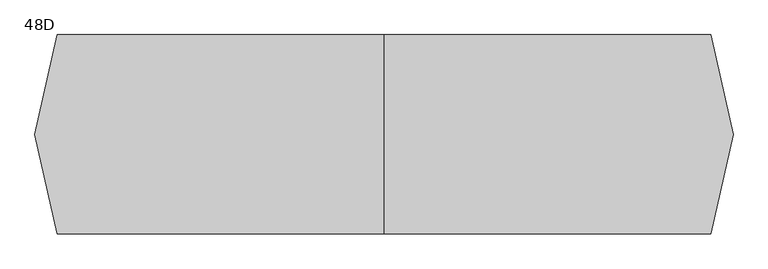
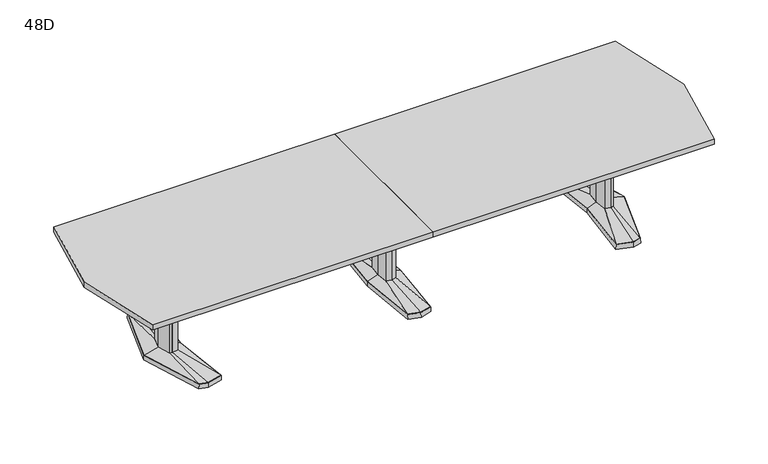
"""IFC4 building model written with IfcOpenShell, lengths in millimetres: furniture geometry, Coalesse_AM_Table_Conference_ETable2_Faceted_14ft_Aluminium Base : 48D."""

import ifcopenshell
import ifcopenshell.guid

model = None  # the IFC model being written
_history = None  # IfcOwnerHistory: only IFC2X3 demands one
_inside = {}  # id of a spatial element -> (the spatial element, [elements in it])
_under = {}  # id of a project, library or spatial element -> (it, [spatial elements below it])
_declared = {}  # id of a project -> (the project, [libraries it declares])
_typed = {}  # id of a type object -> (the type object, [elements of that type])
_made_of = {}  # id of a material, layer set ... -> (it, [elements and type objects made of it])


def new_model(schema):
    """Start an empty IFC model of exactly this schema.

    Asked for "IFC4X3", IfcOpenShell would pick the latest addendum, in which some entities
    have other attributes; the version numbers below select the first issue.
    IFC2X3 requires an IfcOwnerHistory on every rooted entity: one is made here for all.
    """
    global model, _history
    if schema == "IFC4X3":
        model = ifcopenshell.file(schema_version=(4, 3, 0, 0))
    else:
        model = ifcopenshell.file(schema=schema)
    _inside.clear()
    _under.clear()
    _declared.clear()
    _typed.clear()
    _made_of.clear()
    _history = None
    if model.schema == "IFC2X3":
        org = make("IfcOrganization", Name="unknown")
        user = make(
            "IfcPersonAndOrganization",
            ThePerson=make("IfcPerson", FamilyName="unknown"),
            TheOrganization=org,
        )
        app = make(
            "IfcApplication",
            ApplicationDeveloper=org,
            Version="unknown",
            ApplicationFullName="unknown",
            ApplicationIdentifier="unknown",
        )
        _history = make(
            "IfcOwnerHistory",
            OwningUser=user,
            OwningApplication=app,
            ChangeAction="ADDED",
            CreationDate=0,
        )
    return model


def make(cls, **values):
    """One entity of the class cls with the attributes given. An attribute that is None is left unset."""
    return model.create_entity(
        cls, **{name: value for name, value in values.items() if value is not None}
    )


def rooted(cls, **values):
    """An entity with a GlobalId (a new one), such as an element, a storey or a relation."""
    return make(cls, GlobalId=ifcopenshell.guid.new(), OwnerHistory=_history, **values)


def si_unit(unit_type, name, prefix=None):
    """IfcSIUnit, for example si_unit("LENGTHUNIT", "METRE", prefix="MILLI")."""
    return make("IfcSIUnit", UnitType=unit_type, Prefix=prefix, Name=name)


def assignment(units):
    """IfcUnitAssignment: the units of a project."""
    return None if units is None else make("IfcUnitAssignment", Units=units)


def point(xyz):
    """IfcCartesianPoint."""
    return None if xyz is None else make("IfcCartesianPoint", Coordinates=xyz)


def direction(xyz):
    """IfcDirection."""
    return None if xyz is None else make("IfcDirection", DirectionRatios=xyz)


def frame(location, z_axis=None, x_axis=None):
    """IfcAxis2Placement3D, a coordinate frame: its origin and axes. An axis left out is left unset."""
    return make(
        "IfcAxis2Placement3D",
        Location=point(location),
        Axis=direction(z_axis),
        RefDirection=direction(x_axis),
    )


def origin():
    """The frame at (0, 0, 0) with its axes left unset."""
    return frame((0.0, 0.0, 0.0))


def place(relative_to, where):
    """IfcLocalPlacement: puts the frame where relative to a parent placement (None: the world)."""
    return make(
        "IfcLocalPlacement", PlacementRelTo=relative_to, RelativePlacement=where
    )


def context(
    kind, dimensions, precision=None, world=None, true_north=None, identifier=None
):
    """IfcGeometricRepresentationContext, for example the 3D "Model" context."""
    return make(
        "IfcGeometricRepresentationContext",
        ContextIdentifier=identifier,
        ContextType=kind,
        CoordinateSpaceDimension=dimensions,
        Precision=precision,
        WorldCoordinateSystem=world,
        TrueNorth=true_north,
    )


def project(units=None, contexts=None):
    """IfcProject with its units and contexts."""
    return rooted(
        "IfcProject",
        Name="project",
        RepresentationContexts=contexts,
        UnitsInContext=assignment(units),
    )


def spatial(cls, under=None, at=None, **own):
    """A site, building, storey or space (cls), placed at a placement, below another one or the project."""
    s = rooted(cls, ObjectPlacement=at, **own)
    if under is not None:
        _under.setdefault(under.id(), (under, []))[1].append(s)
    return s


def polyline(points):
    """IfcPolyline through the points."""
    return make("IfcPolyline", Points=[point(p) for p in points])


def outline(outer, holes=None, kind="AREA"):
    """IfcArbitraryClosedProfileDef: a profile drawn as a closed curve; with holes, ...WithVoids."""
    if holes is None:
        return make("IfcArbitraryClosedProfileDef", ProfileType=kind, OuterCurve=outer)
    return make(
        "IfcArbitraryProfileDefWithVoids",
        ProfileType=kind,
        OuterCurve=outer,
        InnerCurves=holes,
    )


def extrude(swept, where, along, depth):
    """IfcExtrudedAreaSolid: the profile swept, set in the frame where, extruded along a direction by depth."""
    return make(
        "IfcExtrudedAreaSolid",
        SweptArea=swept,
        Position=where,
        ExtrudedDirection=direction(along),
        Depth=depth,
    )


def faces_of(points, faces, orient=None, outer=None):
    """IfcFace entities. A face is a list of loops; a loop is a list of indices into points, from 0.

    orient and outer hold one flag for each loop. By default every Orientation is true, the
    first loop of a face is its IfcFaceOuterBound and the others are IfcFaceBound.
    """
    made = []
    for i, loops in enumerate(faces):
        bounds = []
        for j, loop in enumerate(loops):
            is_outer = j == 0 if outer is None else outer[i][j]
            bounds.append(
                make(
                    "IfcFaceOuterBound" if is_outer else "IfcFaceBound",
                    Bound=make("IfcPolyLoop", Polygon=[points[k] for k in loop]),
                    Orientation=True if orient is None else orient[i][j],
                )
            )
        made.append(make("IfcFace", Bounds=bounds))
    return made


def faceted_brep(points, faces, orient=None, outer=None, voids=None):
    """IfcFacetedBrep: a solid bounded by flat faces; with voids (closed shells), ...WithVoids."""
    shared = [point(p) for p in points]
    hull = make("IfcClosedShell", CfsFaces=faces_of(shared, faces, orient, outer))
    if voids is None:
        return make("IfcFacetedBrep", Outer=hull)
    return make(
        "IfcFacetedBrepWithVoids",
        Outer=hull,
        Voids=[
            make(cls, CfsFaces=faces_of(shared, fs, o, b)) for cls, fs, o, b in voids
        ],
    )


def shape(context_of_items, identifier, shape_type, items):
    """IfcShapeRepresentation: the items that make up one representation, for example the "Body"."""
    return make(
        "IfcShapeRepresentation",
        ContextOfItems=context_of_items,
        RepresentationIdentifier=identifier,
        RepresentationType=shape_type,
        Items=items,
    )


def source(mapping_origin, context_of_items, identifier, shape_type, items):
    """IfcRepresentationMap: a shape defined once, which mapped items show again and again."""
    return make(
        "IfcRepresentationMap",
        MappingOrigin=mapping_origin,
        MappedRepresentation=shape(context_of_items, identifier, shape_type, items),
    )


def transform(
    local_origin,
    x_axis=None,
    y_axis=None,
    z_axis=None,
    scale=None,
    scale2=None,
    scale3=None,
    uniform=True,
):
    """IfcCartesianTransformationOperator3D, or its non-uniform kind. x_axis, y_axis, z_axis: its Axis1, 2, 3."""
    if uniform:
        return make(
            "IfcCartesianTransformationOperator3D",
            Axis1=direction(x_axis),
            Axis2=direction(y_axis),
            LocalOrigin=point(local_origin),
            Scale=scale,
            Axis3=direction(z_axis),
        )
    return make(
        "IfcCartesianTransformationOperator3DnonUniform",
        Axis1=direction(x_axis),
        Axis2=direction(y_axis),
        LocalOrigin=point(local_origin),
        Scale=scale,
        Axis3=direction(z_axis),
        Scale2=scale2,
        Scale3=scale3,
    )


def mapped(mapping_source, mapping_target):
    """IfcMappedItem: shows the shape of a source again, moved by a transform."""
    return make(
        "IfcMappedItem", MappingSource=mapping_source, MappingTarget=mapping_target
    )


def made_of(thing, what):
    """Note that an element or type object is made of a material, layer set ...; save() writes the relation."""
    if what is not None:
        _made_of.setdefault(what.id(), (what, []))[1].append(thing)
    return thing


def element(
    cls,
    number,
    at=None,
    inside=None,
    cuts=None,
    type_object=None,
    material=None,
    context=None,
    identifier="Body",
    shape_type=None,
    held_by="IfcProductDefinitionShape",
    body=None,
    shapes=None,
    **own,
):
    """One element of the class cls, such as IfcWall. Its Tag is "e" and its number.

    at: its placement. inside: the storey or other place that contains it. cuts: it is an
    opening in that element (IfcRelVoidsElement). A single representation is given by context,
    identifier, shape_type and body (its items); several are given by shapes. held_by: the class
    of the entity that holds the representations. save() writes the other relations.
    """
    e = rooted(cls, Tag="e%d" % number, ObjectPlacement=at, **own)
    if body is not None:
        shapes = [shape(context, identifier, shape_type, body)]
    if shapes is not None:
        e.Representation = make(held_by, Representations=shapes)
    if inside is not None:
        _inside.setdefault(inside.id(), (inside, []))[1].append(e)
    if cuts is not None:
        rooted(
            "IfcRelVoidsElement", RelatingBuildingElement=cuts, RelatedOpeningElement=e
        )
    if type_object is not None:
        _typed.setdefault(type_object.id(), (type_object, []))[1].append(e)
    return made_of(e, material)


def aggregate(whole, parts):
    """IfcRelAggregates: a whole, such as a stair, and the parts it consists of."""
    return rooted("IfcRelAggregates", RelatingObject=whole, RelatedObjects=parts)


def save(model, path):
    """Write the relations noted so far, then the file.

    IfcRelAggregates (storeys below a building ...), IfcRelContainedInSpatialStructure (elements
    in a storey), IfcRelDefinesByType, IfcRelAssociatesMaterial and IfcRelDeclares: one each for
    every whole, place, type object, material and project.
    """
    for whole, parts in _under.values():
        aggregate(whole, parts)
    for where, things in _inside.values():
        rooted(
            "IfcRelContainedInSpatialStructure",
            RelatedElements=things,
            RelatingStructure=where,
        )
    for kind, things in _typed.values():
        rooted("IfcRelDefinesByType", RelatedObjects=things, RelatingType=kind)
    for what, things in _made_of.values():
        rooted("IfcRelAssociatesMaterial", RelatedObjects=things, RelatingMaterial=what)
    for by, libraries in _declared.values():
        rooted("IfcRelDeclares", RelatingContext=by, RelatedDefinitions=libraries)
    model.write(path)


def plane_surface(at):
    """IfcPlane: the flat surface through the origin of the frame at, square to its z axis."""
    return make("IfcPlane", Position=at)


def spline_surface(u_degree, v_degree, points, u_multiplicities, v_multiplicities, u_knots, v_knots, weights=None):
    """IfcBSplineSurfaceWithKnots; with weights, IfcRationalBSplineSurfaceWithKnots. points: one row for each step in u."""
    own = dict(
        UDegree=u_degree,
        VDegree=v_degree,
        ControlPointsList=[[point(p) for p in row] for row in points],
        SurfaceForm="UNSPECIFIED",
        UClosed=False,
        VClosed=False,
        SelfIntersect=False,
        UMultiplicities=u_multiplicities,
        VMultiplicities=v_multiplicities,
        UKnots=u_knots,
        VKnots=v_knots,
        KnotSpec="UNSPECIFIED",
    )
    if weights is None:
        return make("IfcBSplineSurfaceWithKnots", **own)
    return make("IfcRationalBSplineSurfaceWithKnots", WeightsData=weights, **own)


def advanced_brep(points, edges, surfaces, faces):
    """IfcAdvancedBrep: a solid bounded by faces that lie on surfaces and meet in shared edges.

    An edge is (start, end): straight between two places in points (the first is 0);
    or (start, end, curve); or (start, end, curve, False) where it runs against its curve.
    A face is (place in surfaces, loops), or (place, loops, False) where it looks against
    its surface's normal. A loop lists edges by number (the first is 1), with a minus sign
    where the edge is run from its end to its start. The first loop is the outer one.
    """
    corners = [point(p) for p in points]
    vertices = [make("IfcVertexPoint", VertexGeometry=c) for c in corners]
    made = []
    for start, end, *more in edges:
        made.append(
            make(
                "IfcEdgeCurve",
                EdgeStart=vertices[start],
                EdgeEnd=vertices[end],
                EdgeGeometry=more[0] if more else make("IfcPolyline", Points=[corners[start], corners[end]]),
                SameSense=more[1] if len(more) > 1 else True,
            )
        )
    hull = []
    for where, loops, *sense in faces:
        bounds = []
        for j, loop in enumerate(loops):
            ring = [make("IfcOrientedEdge", EdgeElement=made[abs(k) - 1], Orientation=k > 0) for k in loop]
            bounds.append(
                make(
                    "IfcFaceOuterBound" if j == 0 else "IfcFaceBound",
                    Bound=make("IfcEdgeLoop", EdgeList=ring),
                    Orientation=True,
                )
            )
        hull.append(make("IfcAdvancedFace", Bounds=bounds, FaceSurface=surfaces[where], SameSense=sense[0] if sense else True))
    return make("IfcAdvancedBrep", Outer=make("IfcClosedShell", CfsFaces=hull))


def furniture_48d_42d3a3b3(model_context):
    return source(origin(), model_context, "Body", "SolidModel", [
        faceted_brep([(1515.4306835, 455.5848221, 38.1), (1405.8531277, 426.2263816, 38.1), (1447.0163717, 0.0, 38.1), (1405.8531277, -426.2263816, 38.1), (1515.4306835, -455.5848221, 38.1), (1571.5570396, -440.5478297, 38.1), (1708.8684269, 0.0, 38.1), (1571.5570396, 440.5478297, 38.1), (1515.4306754, 457.2283104, 3.175), (1572.8124472, 441.8549756, 3.175), (1710.53125, 0.0, 3.175), (1572.8124472, -441.8549756, 3.175), (1515.4306754, -457.2283104, 3.175), (1404.14375, -427.4118891, 3.175), (1445.4214856, 0.0, 3.175), (1404.14375, 427.4118891, 3.175), (1519.020115, 428.3273875, 3.175), (1413.9718228, 402.1057253, 3.175), (1422.090518, 377.985069, 3.175), (1522.6095466, 401.0699529, 3.175), (1573.1691725, 387.524361, 3.175), (1572.3631061, 414.0360954, 3.175), (1519.020115, -428.3273875, 3.175), (1572.3631061, -414.0360954, 3.175), (1573.1691725, -387.524361, 3.175), (1522.6095466, -401.0699529, 3.175), (1422.090518, -377.985069, 3.175), (1413.9718228, -402.1057253, 3.175), (1645.6153621, 0.0, 3.175), (1613.3459611, 120.4193755, 3.175), (1564.6987222, 133.471665, 3.175), (1484.8180526, 119.4176561, 3.175), (1473.6868466, 0.0, 3.175), (1484.8180526, -119.4176561, 3.175), (1564.6987222, -133.471665, 3.175), (1613.3459611, -120.4193755, 3.175), (1519.020115, 428.3273875, 0.0), (1572.3631061, 414.0360954, 0.0), (1573.1691725, 387.524361, 0.0), (1522.6095466, 401.0699529, 0.0), (1422.090518, 377.985069, 0.0), (1413.9718228, 402.1057253, 0.0), (1519.020115, -428.3273875, 0.0), (1413.9718228, -402.1057253, 0.0), (1422.090518, -377.985069, 0.0), (1522.6095466, -401.0699529, 0.0), (1573.1691725, -387.524361, 0.0), (1572.3631061, -414.0360954, 0.0), (1645.6153621, 0.0, 0.0), (1613.3459611, -120.4193755, 0.0), (1564.6987222, -133.471665, 0.0), (1484.8180526, -119.4176561, 0.0), (1473.6868466, 0.0, 0.0), (1484.8180526, 119.4176561, 0.0), (1564.6987222, 133.471665, 0.0), (1613.3459611, 120.4193755, 0.0)], [[[0, 1, 2, 3, 4, 5, 6, 7]], [[8, 9, 10, 11, 12, 13, 14, 15], [16, 17, 18, 19, 20, 21], [22, 23, 24, 25, 26, 27], [28, 29, 30, 31, 32, 33, 34, 35]], [[7, 9, 8, 0]], [[6, 10, 9, 7]], [[5, 11, 10, 6]], [[4, 12, 11, 5]], [[3, 13, 12, 4]], [[2, 14, 13, 3]], [[1, 15, 14, 2]], [[0, 8, 15, 1]], [[36, 37, 38, 39, 40, 41]], [[42, 43, 44, 45, 46, 47]], [[48, 49, 50, 51, 52, 53, 54, 55]], [[36, 16, 21, 37]], [[37, 21, 20, 38]], [[38, 20, 19, 39]], [[39, 19, 18, 40]], [[40, 18, 17, 41]], [[41, 17, 16, 36]], [[42, 22, 27, 43]], [[43, 27, 26, 44]], [[44, 26, 25, 45]], [[45, 25, 24, 46]], [[46, 24, 23, 47]], [[47, 23, 22, 42]], [[48, 28, 35, 49]], [[49, 35, 34, 50]], [[50, 34, 33, 51]], [[51, 33, 32, 52]], [[52, 32, 31, 53]], [[53, 31, 30, 54]], [[54, 30, 29, 55]], [[55, 29, 28, 48]]]),
        faceted_brep([(1606.1710836, 0.0, 698.5), (1582.2358546, 89.3188359, 698.5), (1565.3824984, 93.8406728, 698.5), (1562.9826511, 94.4845635, 698.5), (1520.055146, 86.9320037, 698.5), (1511.9520056, 0.0, 698.5), (1520.055146, -86.9320037, 698.5), (1562.9826511, -94.4845635, 698.5), (1565.3824984, -93.8406728, 698.5), (1582.2358546, -89.3188359, 698.5), (1606.1710836, 0.0, 63.5), (1582.2358546, -89.3188359, 63.5), (1565.3824984, -93.8406728, 63.5), (1562.9826511, -94.4845635, 63.5), (1520.055146, -86.9320037, 63.5), (1511.9520056, 0.0, 63.5), (1520.055146, 86.9320037, 63.5), (1562.9826511, 94.4845635, 63.5), (1565.3824984, 93.8406728, 63.5), (1582.2358546, 89.3188359, 63.5)], [[[0, 1, 2, 3, 4, 5, 6, 7, 8, 9]], [[10, 11, 12, 13, 14, 15, 16, 17, 18, 19]], [[9, 11, 10, 0]], [[8, 12, 11, 9]], [[7, 13, 12, 8]], [[6, 14, 13, 7]], [[5, 15, 14, 6]], [[4, 16, 15, 5]], [[3, 17, 16, 4]], [[2, 18, 17, 3]], [[1, 19, 18, 2]], [[0, 10, 19, 1]]]),
        advanced_brep(
        [(1562.9826511, 94.4845635, 63.5), (1520.055146, 86.9320037, 63.5), (1511.9520056, 0.0, 63.5), (1520.055146, -86.9320037, 63.5), (1562.9826511, -94.4845635, 63.5), (1582.2358546, -89.3188359, 63.5), (1606.1710836, 0.0, 63.5), (1582.2358546, 89.3188359, 63.5), (1515.4306835, 455.5848221, 38.1), (1571.5570396, 440.5478297, 38.1), (1708.8684269, 0.0, 38.1), (1571.5570396, -440.5478297, 38.1), (1515.4306835, -455.5848221, 38.1), (1405.8531277, -426.2263816, 38.1), (1447.0163717, 0.0, 38.1), (1405.8531277, 426.2263816, 38.1)],
        [
            (0, 1),
            (1, 2),
            (2, 3),
            (3, 4),
            (4, 5),
            (5, 6),
            (6, 7),
            (7, 0),
            (8, 9),
            (9, 10),
            (10, 11),
            (11, 12),
            (12, 13),
            (13, 14),
            (14, 15),
            (15, 8),
            (8, 0),
            (7, 9),
            (6, 10),
            (5, 11),
            (4, 12),
            (3, 13),
            (2, 14),
            (1, 15),
        ],
        [
            plane_surface(frame((1556.0837991, 0.0, 63.5), z_axis=(0.0, 0.0, 1.0), x_axis=(-0.25884244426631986, -0.9659195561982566, 0.0))),
            plane_surface(frame((1517.6958125, 0.0, 38.1), z_axis=(0.0, 0.0, -1.0), x_axis=(-0.25884244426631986, -0.9659195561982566, 0.0))),
            spline_surface(1, 1, [[(1515.4306835, 455.5848221, 38.1), (1571.5570396, 440.5478297, 38.1)], [(1562.9826511, 94.4845635, 63.5), (1582.2358546, 89.3188359, 63.5)]], [2, 2], [2, 2], [0.0, 1.0], [0.0, 1.0]),
            spline_surface(1, 1, [[(1571.5570396, 440.5478297, 38.1), (1708.8684269, 0.0, 38.1)], [(1582.2358546, 89.3188359, 63.5), (1606.1710836, 0.0, 63.5)]], [2, 2], [2, 2], [0.0, 1.0], [0.0, 1.0]),
            spline_surface(1, 1, [[(1708.8684269, 0.0, 38.1), (1571.5570396, -440.5478297, 38.1)], [(1606.1710836, 0.0, 63.5), (1582.2358546, -89.3188359, 63.5)]], [2, 2], [2, 2], [0.0, 1.0], [0.0, 1.0]),
            spline_surface(1, 1, [[(1571.5570396, -440.5478297, 38.1), (1515.4306835, -455.5848221, 38.1)], [(1582.2358546, -89.3188359, 63.5), (1562.9826511, -94.4845635, 63.5)]], [2, 2], [2, 2], [0.0, 1.0], [0.0, 1.0]),
            spline_surface(1, 1, [[(1515.4306835, -455.5848221, 38.1), (1405.8531277, -426.2263816, 38.1)], [(1562.9826511, -94.4845635, 63.5), (1520.055146, -86.9320037, 63.5)]], [2, 2], [2, 2], [0.0, 1.0], [0.0, 1.0]),
            spline_surface(1, 1, [[(1405.8531277, -426.2263816, 38.1), (1447.0163717, 0.0, 38.1)], [(1520.055146, -86.9320037, 63.5), (1511.9520056, 0.0, 63.5)]], [2, 2], [2, 2], [0.0, 1.0], [0.0, 1.0]),
            spline_surface(1, 1, [[(1447.0163717, 0.0, 38.1), (1405.8531277, 426.2263816, 38.1)], [(1511.9520056, 0.0, 63.5), (1520.055146, 86.9320037, 63.5)]], [2, 2], [2, 2], [0.0, 1.0], [0.0, 1.0]),
            spline_surface(1, 1, [[(1405.8531277, 426.2263816, 38.1), (1515.4306835, 455.5848221, 38.1)], [(1520.055146, 86.9320037, 63.5), (1562.9826511, 94.4845635, 63.5)]], [2, 2], [2, 2], [0.0, 1.0], [0.0, 1.0]),
        ],
        [
            (0, [[1, 2, 3, 4, 5, 6, 7, 8]]),
            (1, [[9, 10, 11, 12, 13, 14, 15, 16]]),
            (2, [[17, -8, 18, -9]]),
            (3, [[-18, -7, 19, -10]]),
            (4, [[-19, -6, 20, -11]]),
            (5, [[-20, -5, 21, -12]]),
            (6, [[-21, -4, 22, -13]]),
            (7, [[-22, -3, 23, -14]]),
            (8, [[-23, -2, 24, -15]]),
            (9, [[-24, -1, -17, -16]]),
        ],
    ),
        faceted_brep([(-1515.4306835, 455.5848221, 38.1), (-1571.5570396, 440.5478297, 38.1), (-1708.8684269, 0.0, 38.1), (-1571.5570396, -440.5478297, 38.1), (-1515.4306835, -455.5848221, 38.1), (-1405.8531277, -426.2263816, 38.1), (-1447.0163717, 0.0, 38.1), (-1405.8531277, 426.2263816, 38.1), (-1515.4306754, 457.2283104, 3.175), (-1404.14375, 427.4118891, 3.175), (-1445.4214856, 0.0, 3.175), (-1404.14375, -427.4118891, 3.175), (-1515.4306754, -457.2283104, 3.175), (-1572.8124472, -441.8549756, 3.175), (-1710.53125, 0.0, 3.175), (-1572.8124472, 441.8549756, 3.175), (-1519.020115, 428.3273875, 3.175), (-1572.3631061, 414.0360954, 3.175), (-1573.1691725, 387.524361, 3.175), (-1522.6095466, 401.0699529, 3.175), (-1422.090518, 377.985069, 3.175), (-1413.9718228, 402.1057253, 3.175), (-1519.020115, -428.3273875, 3.175), (-1413.9718228, -402.1057253, 3.175), (-1422.090518, -377.985069, 3.175), (-1522.6095466, -401.0699529, 3.175), (-1573.1691725, -387.524361, 3.175), (-1572.3631061, -414.0360954, 3.175), (-1645.6153621, 0.0, 3.175), (-1613.3459611, -120.4193755, 3.175), (-1564.6987222, -133.471665, 3.175), (-1484.8180526, -119.4176561, 3.175), (-1473.6868466, 0.0, 3.175), (-1484.8180526, 119.4176561, 3.175), (-1564.6987222, 133.471665, 3.175), (-1613.3459611, 120.4193755, 3.175), (-1519.020115, 428.3273875, 0.0), (-1413.9718228, 402.1057253, 0.0), (-1422.090518, 377.985069, 0.0), (-1522.6095466, 401.0699529, 0.0), (-1573.1691725, 387.524361, 0.0), (-1572.3631061, 414.0360954, 0.0), (-1519.020115, -428.3273875, 0.0), (-1572.3631061, -414.0360954, 0.0), (-1573.1691725, -387.524361, 0.0), (-1522.6095466, -401.0699529, 0.0), (-1422.090518, -377.985069, 0.0), (-1413.9718228, -402.1057253, 0.0), (-1645.6153621, 0.0, 0.0), (-1613.3459611, 120.4193755, 0.0), (-1564.6987222, 133.471665, 0.0), (-1484.8180526, 119.4176561, 0.0), (-1473.6868466, 0.0, 0.0), (-1484.8180526, -119.4176561, 0.0), (-1564.6987222, -133.471665, 0.0), (-1613.3459611, -120.4193755, 0.0)], [[[0, 1, 2, 3, 4, 5, 6, 7]], [[8, 9, 10, 11, 12, 13, 14, 15], [16, 17, 18, 19, 20, 21], [22, 23, 24, 25, 26, 27], [28, 29, 30, 31, 32, 33, 34, 35]], [[1, 0, 8, 15]], [[2, 1, 15, 14]], [[3, 2, 14, 13]], [[4, 3, 13, 12]], [[5, 4, 12, 11]], [[6, 5, 11, 10]], [[7, 6, 10, 9]], [[0, 7, 9, 8]], [[36, 37, 38, 39, 40, 41]], [[42, 43, 44, 45, 46, 47]], [[48, 49, 50, 51, 52, 53, 54, 55]], [[36, 41, 17, 16]], [[41, 40, 18, 17]], [[40, 39, 19, 18]], [[39, 38, 20, 19]], [[38, 37, 21, 20]], [[37, 36, 16, 21]], [[42, 47, 23, 22]], [[47, 46, 24, 23]], [[46, 45, 25, 24]], [[45, 44, 26, 25]], [[44, 43, 27, 26]], [[43, 42, 22, 27]], [[48, 55, 29, 28]], [[55, 54, 30, 29]], [[54, 53, 31, 30]], [[53, 52, 32, 31]], [[52, 51, 33, 32]], [[51, 50, 34, 33]], [[50, 49, 35, 34]], [[49, 48, 28, 35]]]),
        faceted_brep([(-1606.1710836, 0.0, 698.5), (-1582.2358546, -89.3188359, 698.5), (-1565.3824984, -93.8406728, 698.5), (-1562.9826511, -94.4845635, 698.5), (-1520.055146, -86.9320037, 698.5), (-1511.9520056, 0.0, 698.5), (-1520.055146, 86.9320037, 698.5), (-1562.9826511, 94.4845635, 698.5), (-1565.3824984, 93.8406728, 698.5), (-1582.2358546, 89.3188359, 698.5), (-1606.1710836, 0.0, 63.5), (-1582.2358546, 89.3188359, 63.5), (-1565.3824984, 93.8406728, 63.5), (-1562.9826511, 94.4845635, 63.5), (-1520.055146, 86.9320037, 63.5), (-1511.9520056, 0.0, 63.5), (-1520.055146, -86.9320037, 63.5), (-1562.9826511, -94.4845635, 63.5), (-1565.3824984, -93.8406728, 63.5), (-1582.2358546, -89.3188359, 63.5)], [[[0, 1, 2, 3, 4, 5, 6, 7, 8, 9]], [[10, 11, 12, 13, 14, 15, 16, 17, 18, 19]], [[1, 0, 10, 19]], [[2, 1, 19, 18]], [[3, 2, 18, 17]], [[4, 3, 17, 16]], [[5, 4, 16, 15]], [[6, 5, 15, 14]], [[7, 6, 14, 13]], [[8, 7, 13, 12]], [[9, 8, 12, 11]], [[0, 9, 11, 10]]]),
        advanced_brep(
        [(-1562.9826511, 94.4845635, 63.5), (-1582.2358546, 89.3188359, 63.5), (-1606.1710836, 0.0, 63.5), (-1582.2358546, -89.3188359, 63.5), (-1562.9826511, -94.4845635, 63.5), (-1520.055146, -86.9320037, 63.5), (-1511.9520056, 0.0, 63.5), (-1520.055146, 86.9320037, 63.5), (-1515.4306835, 455.5848221, 38.1), (-1405.8531277, 426.2263816, 38.1), (-1447.0163717, 0.0, 38.1), (-1405.8531277, -426.2263816, 38.1), (-1515.4306835, -455.5848221, 38.1), (-1571.5570396, -440.5478297, 38.1), (-1708.8684269, 0.0, 38.1), (-1571.5570396, 440.5478297, 38.1)],
        [
            (0, 1),
            (1, 2),
            (2, 3),
            (3, 4),
            (4, 5),
            (5, 6),
            (6, 7),
            (7, 0),
            (8, 9),
            (9, 10),
            (10, 11),
            (11, 12),
            (12, 13),
            (13, 14),
            (14, 15),
            (15, 8),
            (15, 1),
            (0, 8),
            (14, 2),
            (13, 3),
            (12, 4),
            (11, 5),
            (10, 6),
            (9, 7),
        ],
        [
            plane_surface(frame((-1556.0837991, 0.0, 63.5), z_axis=(0.0, 0.0, 1.0), x_axis=(0.25884244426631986, -0.9659195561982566, 0.0))),
            plane_surface(frame((-1517.6958125, 0.0, 38.1), z_axis=(0.0, 0.0, -1.0), x_axis=(0.25884244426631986, -0.9659195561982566, 0.0))),
            spline_surface(1, 1, [[(-1515.4306835, 455.5848221, 38.1), (-1562.9826511, 94.4845635, 63.5)], [(-1571.5570396, 440.5478297, 38.1), (-1582.2358546, 89.3188359, 63.5)]], [2, 2], [2, 2], [0.0, 1.0], [0.0, 1.0]),
            spline_surface(1, 1, [[(-1571.5570396, 440.5478297, 38.1), (-1582.2358546, 89.3188359, 63.5)], [(-1708.8684269, 0.0, 38.1), (-1606.1710836, 0.0, 63.5)]], [2, 2], [2, 2], [0.0, 1.0], [0.0, 1.0]),
            spline_surface(1, 1, [[(-1708.8684269, 0.0, 38.1), (-1606.1710836, 0.0, 63.5)], [(-1571.5570396, -440.5478297, 38.1), (-1582.2358546, -89.3188359, 63.5)]], [2, 2], [2, 2], [0.0, 1.0], [0.0, 1.0]),
            spline_surface(1, 1, [[(-1571.5570396, -440.5478297, 38.1), (-1582.2358546, -89.3188359, 63.5)], [(-1515.4306835, -455.5848221, 38.1), (-1562.9826511, -94.4845635, 63.5)]], [2, 2], [2, 2], [0.0, 1.0], [0.0, 1.0]),
            spline_surface(1, 1, [[(-1515.4306835, -455.5848221, 38.1), (-1562.9826511, -94.4845635, 63.5)], [(-1405.8531277, -426.2263816, 38.1), (-1520.055146, -86.9320037, 63.5)]], [2, 2], [2, 2], [0.0, 1.0], [0.0, 1.0]),
            spline_surface(1, 1, [[(-1405.8531277, -426.2263816, 38.1), (-1520.055146, -86.9320037, 63.5)], [(-1447.0163717, 0.0, 38.1), (-1511.9520056, 0.0, 63.5)]], [2, 2], [2, 2], [0.0, 1.0], [0.0, 1.0]),
            spline_surface(1, 1, [[(-1447.0163717, 0.0, 38.1), (-1511.9520056, 0.0, 63.5)], [(-1405.8531277, 426.2263816, 38.1), (-1520.055146, 86.9320037, 63.5)]], [2, 2], [2, 2], [0.0, 1.0], [0.0, 1.0]),
            spline_surface(1, 1, [[(-1405.8531277, 426.2263816, 38.1), (-1520.055146, 86.9320037, 63.5)], [(-1515.4306835, 455.5848221, 38.1), (-1562.9826511, 94.4845635, 63.5)]], [2, 2], [2, 2], [0.0, 1.0], [0.0, 1.0]),
        ],
        [
            (0, [[1, 2, 3, 4, 5, 6, 7, 8]]),
            (1, [[9, 10, 11, 12, 13, 14, 15, 16]]),
            (2, [[-16, 17, -1, 18]]),
            (3, [[-15, 19, -2, -17]]),
            (4, [[-14, 20, -3, -19]]),
            (5, [[-13, 21, -4, -20]]),
            (6, [[-12, 22, -5, -21]]),
            (7, [[-11, 23, -6, -22]]),
            (8, [[-10, 24, -7, -23]]),
            (9, [[-9, -18, -8, -24]]),
        ],
    ),
        faceted_brep([(-81.2333791, -433.8053819, 38.1), (0.0, -455.556576, 38.1), (81.2333791, -433.8053819, 38.1), (119.0564774, 0.0, 38.1), (81.2333791, 433.8053819, 38.1), (0.0, 455.556576, 38.1), (-81.2333791, 433.8053819, 38.1), (-119.0564774, 0.0, 38.1), (-82.7182795, -435.0512063, 3.175), (-120.65, 0.0, 3.175), (-82.7182795, 435.0512063, 3.175), (0.0, 457.2, 3.175), (82.7182795, 435.0512063, 3.175), (120.65, 0.0, 3.175), (82.7182795, -435.0512063, 3.175), (0.0, -457.2, 3.175), (0.0, 429.2617927, 3.175), (-77.9676806, 408.3850278, 3.175), (-74.7019821, 382.9646737, 3.175), (0.0, 402.9670094, 3.175), (74.7019821, 382.9646737, 3.175), (77.9676806, 408.3850278, 3.175), (0.0, -429.2617927, 3.175), (77.9676806, -408.3850278, 3.175), (74.7019821, -382.9646737, 3.175), (0.0, -402.9670094, 3.175), (-74.7019821, -382.9646737, 3.175), (-77.9676806, -408.3850278, 3.175), (-71.8574262, 114.6326257, 3.175), (-82.5426076, 0.0, 3.175), (-71.8574262, -114.6326257, 3.175), (0.0, -133.8761372, 3.175), (71.8574262, -114.6326257, 3.175), (82.5426076, 0.0, 3.175), (71.8574262, 114.6326257, 3.175), (0.0, 133.8761372, 3.175), (0.0, 429.2617927, 0.0), (77.9676806, 408.3850278, 0.0), (74.7019821, 382.9646737, 0.0), (0.0, 402.9670094, 0.0), (-74.7019821, 382.9646737, 0.0), (-77.9676806, 408.3850278, 0.0), (0.0, -429.2617927, 0.0), (-77.9676806, -408.3850278, 0.0), (-74.7019821, -382.9646737, 0.0), (0.0, -402.9670094, 0.0), (74.7019821, -382.9646737, 0.0), (77.9676806, -408.3850278, 0.0), (-71.8574262, 114.6326257, 0.0), (0.0, 133.8761372, 0.0), (71.8574262, 114.6326257, 0.0), (82.5426076, 0.0, 0.0), (71.8574262, -114.6326257, 0.0), (0.0, -133.8761372, 0.0), (-71.8574262, -114.6326257, 0.0), (-82.5426076, 0.0, 0.0)], [[[0, 1, 2, 3, 4, 5, 6, 7]], [[8, 9, 10, 11, 12, 13, 14, 15], [16, 17, 18, 19, 20, 21], [22, 23, 24, 25, 26, 27], [28, 29, 30, 31, 32, 33, 34, 35]], [[1, 0, 8, 15]], [[2, 1, 15, 14]], [[3, 2, 14, 13]], [[4, 3, 13, 12]], [[5, 4, 12, 11]], [[6, 5, 11, 10]], [[7, 6, 10, 9]], [[0, 7, 9, 8]], [[36, 37, 38, 39, 40, 41]], [[42, 43, 44, 45, 46, 47]], [[48, 49, 50, 51, 52, 53, 54, 55]], [[36, 41, 17, 16]], [[41, 40, 18, 17]], [[40, 39, 19, 18]], [[39, 38, 20, 19]], [[38, 37, 21, 20]], [[37, 36, 16, 21]], [[42, 47, 23, 22]], [[47, 46, 24, 23]], [[46, 45, 25, 24]], [[45, 44, 26, 25]], [[44, 43, 27, 26]], [[43, 42, 22, 27]], [[48, 55, 29, 28]], [[55, 54, 30, 29]], [[54, 53, 31, 30]], [[53, 52, 32, 31]], [[52, 51, 33, 32]], [[51, 50, 34, 33]], [[50, 49, 35, 34]], [[49, 48, 28, 35]]]),
        faceted_brep([(-36.3832834, 84.6900825, 698.5), (-44.2774487, 0.0, 698.5), (-36.3832834, -84.6900825, 698.5), (0.0, -94.4335728, 698.5), (36.3832834, -84.6900825, 698.5), (44.2774487, 0.0, 698.5), (36.3832834, 84.6900825, 698.5), (0.0, 94.4335728, 698.5), (-36.3832834, 84.6900825, 63.5), (0.0, 94.4335728, 63.5), (36.3832834, 84.6900825, 63.5), (44.2774487, 0.0, 63.5), (36.3832834, -84.6900825, 63.5), (0.0, -94.4335728, 63.5), (-36.3832834, -84.6900825, 63.5), (-44.2774487, 0.0, 63.5)], [[[0, 1, 2, 3, 4, 5, 6, 7]], [[8, 9, 10, 11, 12, 13, 14, 15]], [[1, 0, 8, 15]], [[2, 1, 15, 14]], [[3, 2, 14, 13]], [[4, 3, 13, 12]], [[5, 4, 12, 11]], [[6, 5, 11, 10]], [[7, 6, 10, 9]], [[0, 7, 9, 8]]]),
        advanced_brep(
        [(-36.3832834, 84.6900825, 63.5), (-44.2774487, 0.0, 63.5), (-36.3832834, -84.6900825, 63.5), (0.0, -94.4335728, 63.5), (36.3832834, -84.6900825, 63.5), (44.2774487, 0.0, 63.5), (36.3832834, 84.6900825, 63.5), (0.0, 94.4335728, 63.5), (-81.2333791, 433.8053819, 38.1), (0.0, 455.556576, 38.1), (81.2333791, 433.8053819, 38.1), (119.0564774, 0.0, 38.1), (81.2333791, -433.8053819, 38.1), (0.0, -455.556576, 38.1), (-81.2333791, -433.8053819, 38.1), (-119.0564774, 0.0, 38.1)],
        [
            (0, 1),
            (1, 2),
            (2, 3),
            (3, 4),
            (4, 5),
            (5, 6),
            (6, 7),
            (7, 0),
            (8, 9),
            (9, 10),
            (10, 11),
            (11, 12),
            (12, 13),
            (13, 14),
            (14, 15),
            (15, 8),
            (15, 1),
            (0, 8),
            (14, 2),
            (13, 3),
            (12, 4),
            (11, 5),
            (10, 6),
            (9, 7),
        ],
        [
            plane_surface(frame((0.0, 0.0, 63.5), z_axis=(0.0, 0.0, 1.0000000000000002), x_axis=(-0.9659615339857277, -0.25868574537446, 0.0))),
            plane_surface(frame((0.0, 0.0, 38.1), z_axis=(0.0, 0.0, -1.0000000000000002), x_axis=(-0.9659615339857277, -0.25868574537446, 0.0))),
            spline_surface(1, 1, [[(-81.2333791, 433.8053819, 38.1), (-36.3832834, 84.6900825, 63.5)], [(-119.0564774, 0.0, 38.1), (-44.2774487, 0.0, 63.5)]], [2, 2], [2, 2], [0.0, 1.0], [0.0, 1.0]),
            spline_surface(1, 1, [[(-119.0564774, 0.0, 38.1), (-44.2774487, 0.0, 63.5)], [(-81.2333791, -433.8053819, 38.1), (-36.3832834, -84.6900825, 63.5)]], [2, 2], [2, 2], [0.0, 1.0], [0.0, 1.0]),
            spline_surface(1, 1, [[(-81.2333791, -433.8053819, 38.1), (-36.3832834, -84.6900825, 63.5)], [(0.0, -455.556576, 38.1), (0.0, -94.4335728, 63.5)]], [2, 2], [2, 2], [0.0, 1.0], [0.0, 1.0]),
            spline_surface(1, 1, [[(0.0, -455.556576, 38.1), (0.0, -94.4335728, 63.5)], [(81.2333791, -433.8053819, 38.1), (36.3832834, -84.6900825, 63.5)]], [2, 2], [2, 2], [0.0, 1.0], [0.0, 1.0]),
            spline_surface(1, 1, [[(81.2333791, -433.8053819, 38.1), (36.3832834, -84.6900825, 63.5)], [(119.0564774, 0.0, 38.1), (44.2774487, 0.0, 63.5)]], [2, 2], [2, 2], [0.0, 1.0], [0.0, 1.0]),
            spline_surface(1, 1, [[(119.0564774, 0.0, 38.1), (44.2774487, 0.0, 63.5)], [(81.2333791, 433.8053819, 38.1), (36.3832834, 84.6900825, 63.5)]], [2, 2], [2, 2], [0.0, 1.0], [0.0, 1.0]),
            spline_surface(1, 1, [[(81.2333791, 433.8053819, 38.1), (36.3832834, 84.6900825, 63.5)], [(0.0, 455.556576, 38.1), (0.0, 94.4335728, 63.5)]], [2, 2], [2, 2], [0.0, 1.0], [0.0, 1.0]),
            spline_surface(1, 1, [[(0.0, 455.556576, 38.1), (0.0, 94.4335728, 63.5)], [(-81.2333791, 433.8053819, 38.1), (-36.3832834, 84.6900825, 63.5)]], [2, 2], [2, 2], [0.0, 1.0], [0.0, 1.0]),
        ],
        [
            (0, [[1, 2, 3, 4, 5, 6, 7, 8]]),
            (1, [[9, 10, 11, 12, 13, 14, 15, 16]]),
            (2, [[-16, 17, -1, 18]]),
            (3, [[-15, 19, -2, -17]]),
            (4, [[-14, 20, -3, -19]]),
            (5, [[-13, 21, -4, -20]]),
            (6, [[-12, 22, -5, -21]]),
            (7, [[-11, 23, -6, -22]]),
            (8, [[-10, 24, -7, -23]]),
            (9, [[-9, -18, -8, -24]]),
        ],
    ),
        extrude(outline(polyline([(96.8375, 698.5), (103.1875, 698.5), (103.1875, 476.25), (-103.1875, 476.25), (-103.1875, 698.5), (-96.8375, 698.5), (-96.8375, 482.6), (96.8375, 482.6), (96.8375, 698.5)])), frame((44.2774487, 0.0, 0.0), z_axis=(1.0, 0.0, 0.0), x_axis=(0.0, 1.0, 0.0)), (0.0, 0.0, 1.0), 1467.8163013),
        extrude(outline(polyline([(1998.4541794, 609.6), (2133.6, 0.0), (1998.4541794, -609.6), (0.0, -609.6), (0.0, 609.6), (1998.4541794, 609.6)])), frame((0.0, 0.0, 698.5), z_axis=(0.0, 0.0, 1.0), x_axis=(1.0, 0.0, 0.0)), (0.0, 0.0, 1.0), 38.1),
        extrude(outline(polyline([(0.0, 609.6), (0.0, -609.6), (-1998.4541794, -609.6), (-2133.6, 0.0), (-1998.4541794, 609.6), (0.0, 609.6)])), frame((0.0, 0.0, 698.5), z_axis=(0.0, 0.0, 1.0), x_axis=(1.0, 0.0, 0.0)), (0.0, 0.0, 1.0), 38.1),
        extrude(outline(polyline([(96.8375, 698.5), (103.1875, 698.5), (103.1875, 476.25), (-103.1875, 476.25), (-103.1875, 698.5), (-96.8375, 698.5), (-96.8375, 482.6), (96.8375, 482.6), (96.8375, 698.5)])), frame((-1512.09375, 0.0, 0.0), z_axis=(1.0, 0.0, 0.0), x_axis=(0.0, 1.0, 0.0)), (0.0, 0.0, 1.0), 1467.8163013),
    ])


if __name__ == "__main__":
    model = new_model("IFC4")
    model_context = context("Model", 3, world=origin())
    ifc_project = project(units=[si_unit("LENGTHUNIT", "METRE", prefix="MILLI")], contexts=[model_context])
    site = spatial("IfcSite", under=ifc_project)
    building = spatial("IfcBuilding", under=site)
    placement = place(None, origin())
    furniture_48d_shape = furniture_48d_42d3a3b3(model_context)
    element("IfcFurniture", 1, ObjectType="Coalesse_AM_Table_Conference_ETable2_Faceted_14ft_Aluminium Base : 48D", at=placement, inside=building, context=model_context, shape_type="MappedRepresentation", body=[
        mapped(furniture_48d_shape, transform((0.0, 0.0, 0.0), x_axis=(1.0, 0.0, 0.0), y_axis=(0.0, 1.0, 0.0), z_axis=(0.0, 0.0, 1.0))),
    ])
    save(model, "model.ifc")
